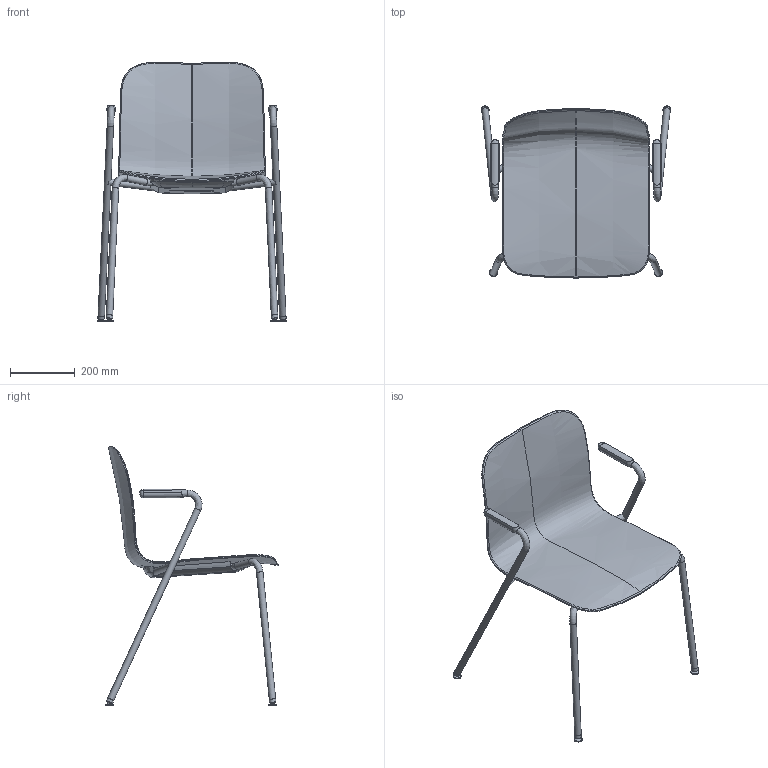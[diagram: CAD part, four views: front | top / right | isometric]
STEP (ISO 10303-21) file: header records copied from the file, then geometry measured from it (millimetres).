
FILE_DESCRIPTION(/* description */ (''),/* implementation_level */ '2;1');
FILE_NAME(/* name */ 'Lambda LA4001-091',/* time_stamp */ '2024-03-04T14:39:47+01:00',/* author */ (''),/* organization */ (''),/* preprocessor_version */ 'ST-DEVELOPER v16.5',/* originating_system */ 'Rhino 7.35',/* authorisation */ '');
FILE_SCHEMA (('CONFIG_CONTROL_DESIGN'));
Length unit declared in the file: millimetre
Products named in the file (1): Document
Bounding box: 583.67 x 530.54 x 797.34 mm (x, y, z)
Volume: 170440.9 mm3; surface area: 1119952.5 mm2
Topology: 10 solids, 25 shells, 930 faces, 2443 edges, 1618 vertices
Faces by surface type: plane 438, bspline 370, cylinder 122
Full cylindrical faces by diameter (mm): 20 x20, 22 x4, 24.5 x4
Entity records: 75512 total; most frequent: CARTESIAN_POINT 59291, ORIENTED_EDGE 4798, EDGE_CURVE 2430, B_SPLINE_CURVE_WITH_KNOTS 2265, VERTEX_POINT 1612, EDGE_LOOP 1015, ADVANCED_FACE 930, FACE_OUTER_BOUND 930
